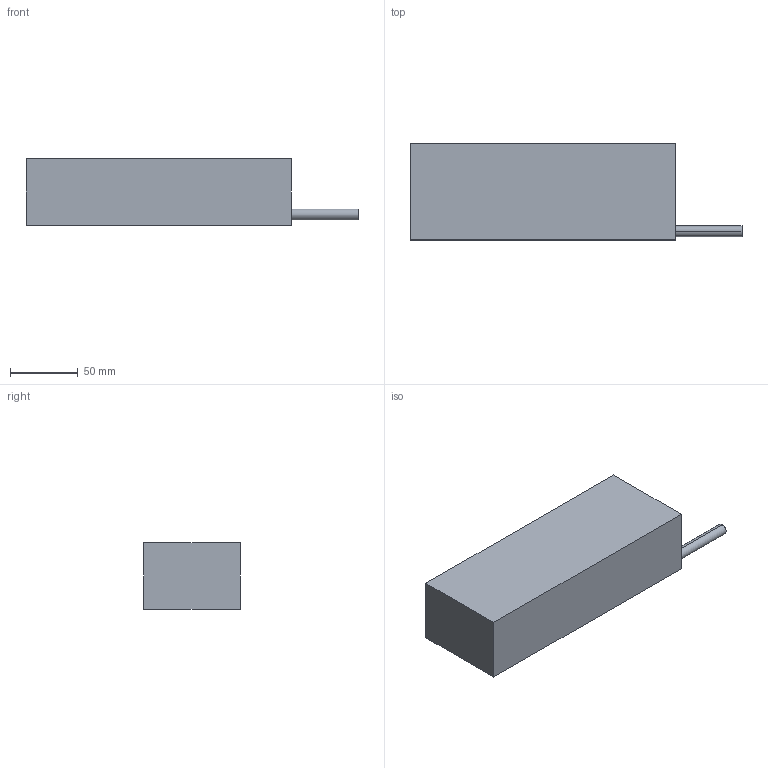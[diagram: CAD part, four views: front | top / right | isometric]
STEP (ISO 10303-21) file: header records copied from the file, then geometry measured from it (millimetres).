
FILE_DESCRIPTION (( 'STEP AP214' ), '1' );
FILE_NAME ('FLM-71-196.STEP', '2022-05-12T08:02:22', ( 'Microsoft' ), ( 'Microsoft' ), 'SwSTEP 2.0', 'SolidWorks 2016', '' );
FILE_SCHEMA (( 'AUTOMOTIVE_DESIGN' ));
Length unit declared in the file: millimetre
Products named in the file (1): FLM-71-196
Bounding box: 245.3 x 71 x 49.3 mm (x, y, z)
Volume: 687537.3 mm3; surface area: 56259.2 mm2
Topology: 1 solids, 1 shells, 81 faces, 186 edges, 96 vertices
Faces by surface type: cone 48, cylinder 26, plane 7
Entity records: 2382 total; most frequent: DIRECTION 402, CARTESIAN_POINT 340, ORIENTED_EDGE 324, EDGE_CURVE 162, AXIS2_PLACEMENT_3D 158, VERTEX_POINT 96, EDGE_LOOP 94, LINE 86
